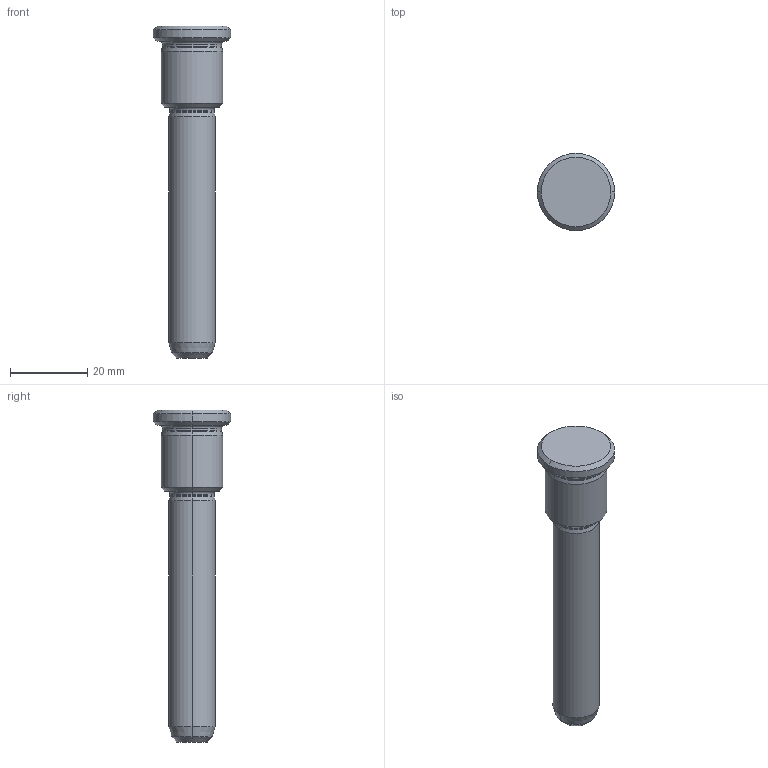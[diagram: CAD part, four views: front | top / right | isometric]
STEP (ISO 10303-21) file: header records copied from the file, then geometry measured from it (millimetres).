
FILE_DESCRIPTION (( 'STEP AP214' ), '1' );
FILE_NAME ('BRGC 12x21x65.STEP', '2019-12-19T09:23:30', ( 'August' ), ( '' ), 'SwSTEP 2.0', 'SolidWorks 2018', '' );
FILE_SCHEMA (( 'AUTOMOTIVE_DESIGN' ));
Length unit declared in the file: millimetre
Products named in the file (1): BRGC 12x21x65
Bounding box: 20 x 20 x 86 mm (x, y, z)
Volume: 11806.7 mm3; surface area: 4008.4 mm2
Topology: 1 solids, 1 shells, 36 faces, 70 edges, 38 vertices
Faces by surface type: cone 14, cylinder 10, torus 8, plane 4
Entity records: 946 total; most frequent: DIRECTION 190, CARTESIAN_POINT 145, ORIENTED_EDGE 140, AXIS2_PLACEMENT_3D 83, EDGE_CURVE 70, CIRCLE 46, EDGE_LOOP 38, VERTEX_POINT 38
